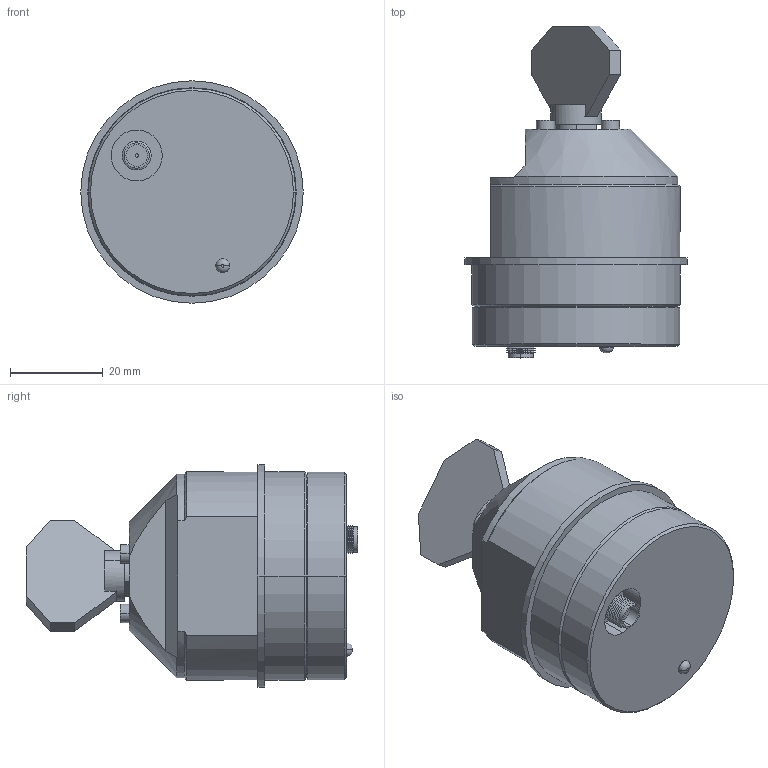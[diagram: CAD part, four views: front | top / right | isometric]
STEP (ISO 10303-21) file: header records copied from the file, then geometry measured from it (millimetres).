
FILE_DESCRIPTION (( 'STEP AP214' ), '1' );
FILE_NAME ('RTAX_A15.STEP', '2019-06-06T08:05:43', ( '' ), ( '' ), 'SwSTEP 2.0', 'SolidWorks 2011', '' );
FILE_SCHEMA (( 'AUTOMOTIVE_DESIGN' ));
Length unit declared in the file: millimetre
Products named in the file (5): RTAX_A15; Scanner_Solid; Scanner_Draw10_4; A15_MirrorX; socket head cap screw_iso_ISO 4762 M2 x 5 --- 5N
Assembly tree (5 placements, depth 2):
  RTAX_A15
    socket head cap screw_iso_ISO 4762 M2 x 5 --- 5N  x2
    Scanner_Draw10_4
    A15_MirrorX
    Scanner_Solid
Bounding box: 48 x 71.65 x 48 mm (x, y, z)
Volume: 66682.5 mm3; surface area: 11827.6 mm2
Topology: 5 solids, 5 shells, 199 faces, 441 edges, 266 vertices
Faces by surface type: plane 78, cylinder 55, cone 50, torus 16
Entity records: 5980 total; most frequent: DIRECTION 918, CARTESIAN_POINT 846, ORIENTED_EDGE 762, EDGE_CURVE 381, AXIS2_PLACEMENT_3D 369, VERTEX_POINT 233, EDGE_LOOP 192, CIRCLE 189
